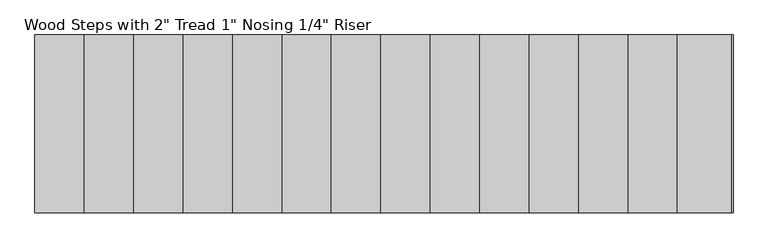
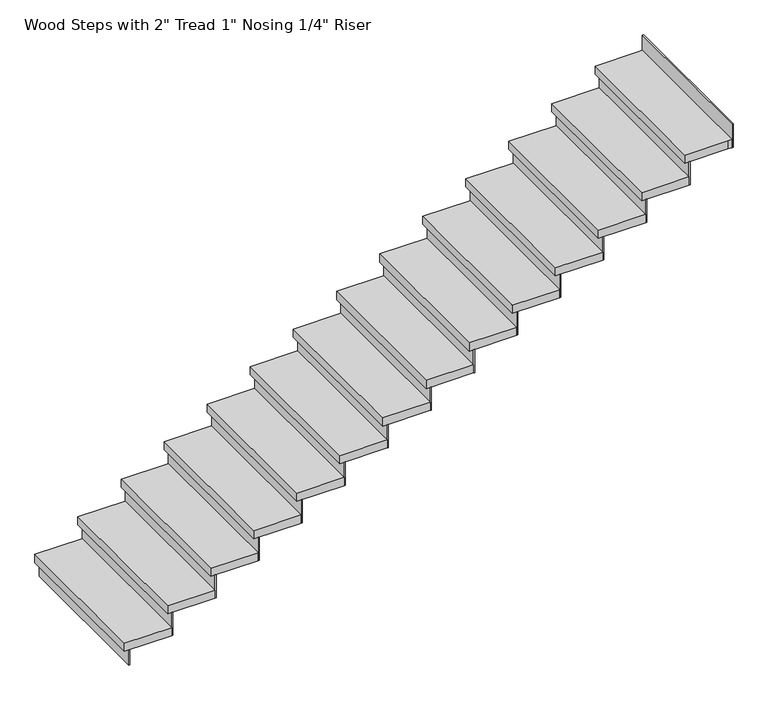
"""IFC4 building model written with IfcOpenShell, lengths in millimetres: stair flight geometry."""

from ifc_helpers import new_model, si_unit, frame, origin, origin_with_axes, place, context, project, spatial, polyline, outline, extrude, source, transform, mapped, element, save


def stair_flight_be7faa67(model_context):
    return source(origin(), model_context, "Body", "SweptSolid", [
        extrude(outline(polyline([(-36093.92137, 14905.6177722), (-36100.27137, 14905.6177722), (-36100.27137, 15820.0177722), (-36093.92137, 15820.0177722), (-36093.92137, 14905.6177722)])), origin_with_axes(), (0.0, 0.0, 1.0), 94.3428571),
        extrude(outline(polyline([(-35846.27137, 15820.0177722), (-35846.27137, 14905.6177722), (-36125.67137, 14905.6177722), (-36125.67137, 15820.0177722), (-35846.27137, 15820.0177722)])), frame((0.0, 0.0, 94.3428571), z_axis=(0.0, 0.0, 1.0), x_axis=(1.0, 0.0, 0.0)), (0.0, 0.0, 1.0), 50.8),
        extrude(outline(polyline([(-35839.92137, 14905.6177722), (-35846.27137, 14905.6177722), (-35846.27137, 15820.0177722), (-35839.92137, 15820.0177722), (-35839.92137, 14905.6177722)])), frame((0.0, 0.0, 94.3428571), z_axis=(0.0, 0.0, 1.0), x_axis=(1.0, 0.0, 0.0)), (0.0, 0.0, 1.0), 145.1428571),
        extrude(outline(polyline([(-35592.27137, 15820.0177722), (-35592.27137, 14905.6177722), (-35871.67137, 14905.6177722), (-35871.67137, 15820.0177722), (-35592.27137, 15820.0177722)])), frame((0.0, 0.0, 239.4857143), z_axis=(0.0, 0.0, 1.0), x_axis=(1.0, 0.0, 0.0)), (0.0, 0.0, 1.0), 50.8),
        extrude(outline(polyline([(-35585.92137, 14905.6177722), (-35592.27137, 14905.6177722), (-35592.27137, 15820.0177722), (-35585.92137, 15820.0177722), (-35585.92137, 14905.6177722)])), frame((0.0, 0.0, 239.4857143), z_axis=(0.0, 0.0, 1.0), x_axis=(1.0, 0.0, 0.0)), (0.0, 0.0, 1.0), 145.1428571),
        extrude(outline(polyline([(-35338.27137, 15820.0177722), (-35338.27137, 14905.6177722), (-35617.67137, 14905.6177722), (-35617.67137, 15820.0177722), (-35338.27137, 15820.0177722)])), frame((0.0, 0.0, 384.6285714), z_axis=(0.0, 0.0, 1.0), x_axis=(1.0, 0.0, 0.0)), (0.0, 0.0, 1.0), 50.8),
        extrude(outline(polyline([(-35331.92137, 14905.6177722), (-35338.27137, 14905.6177722), (-35338.27137, 15820.0177722), (-35331.92137, 15820.0177722), (-35331.92137, 14905.6177722)])), frame((0.0, 0.0, 384.6285714), z_axis=(0.0, 0.0, 1.0), x_axis=(1.0, 0.0, 0.0)), (0.0, 0.0, 1.0), 145.1428571),
        extrude(outline(polyline([(-35084.27137, 15820.0177722), (-35084.27137, 14905.6177722), (-35363.67137, 14905.6177722), (-35363.67137, 15820.0177722), (-35084.27137, 15820.0177722)])), frame((0.0, 0.0, 529.7714286), z_axis=(0.0, 0.0, 1.0), x_axis=(1.0, 0.0, 0.0)), (0.0, 0.0, 1.0), 50.8),
        extrude(outline(polyline([(-35077.92137, 14905.6177722), (-35084.27137, 14905.6177722), (-35084.27137, 15820.0177722), (-35077.92137, 15820.0177722), (-35077.92137, 14905.6177722)])), frame((0.0, 0.0, 529.7714286), z_axis=(0.0, 0.0, 1.0), x_axis=(1.0, 0.0, 0.0)), (0.0, 0.0, 1.0), 145.1428571),
        extrude(outline(polyline([(-34830.27137, 15820.0177722), (-34830.27137, 14905.6177722), (-35109.67137, 14905.6177722), (-35109.67137, 15820.0177722), (-34830.27137, 15820.0177722)])), frame((0.0, 0.0, 674.9142857), z_axis=(0.0, 0.0, 1.0), x_axis=(1.0, 0.0, 0.0)), (0.0, 0.0, 1.0), 50.8),
        extrude(outline(polyline([(-34823.92137, 14905.6177722), (-34830.27137, 14905.6177722), (-34830.27137, 15820.0177722), (-34823.92137, 15820.0177722), (-34823.92137, 14905.6177722)])), frame((0.0, 0.0, 674.9142857), z_axis=(0.0, 0.0, 1.0), x_axis=(1.0, 0.0, 0.0)), (0.0, 0.0, 1.0), 145.1428571),
        extrude(outline(polyline([(-34576.27137, 15820.0177722), (-34576.27137, 14905.6177722), (-34855.67137, 14905.6177722), (-34855.67137, 15820.0177722), (-34576.27137, 15820.0177722)])), frame((0.0, 0.0, 820.0571429), z_axis=(0.0, 0.0, 1.0), x_axis=(1.0, 0.0, 0.0)), (0.0, 0.0, 1.0), 50.8),
        extrude(outline(polyline([(-34569.92137, 14905.6177722), (-34576.27137, 14905.6177722), (-34576.27137, 15820.0177722), (-34569.92137, 15820.0177722), (-34569.92137, 14905.6177722)])), frame((0.0, 0.0, 820.0571429), z_axis=(0.0, 0.0, 1.0), x_axis=(1.0, 0.0, 0.0)), (0.0, 0.0, 1.0), 145.1428571),
        extrude(outline(polyline([(-34322.27137, 15820.0177722), (-34322.27137, 14905.6177722), (-34601.67137, 14905.6177722), (-34601.67137, 15820.0177722), (-34322.27137, 15820.0177722)])), frame((0.0, 0.0, 965.2), z_axis=(0.0, 0.0, 1.0), x_axis=(1.0, 0.0, 0.0)), (0.0, 0.0, 1.0), 50.8),
        extrude(outline(polyline([(-34315.92137, 14905.6177722), (-34322.27137, 14905.6177722), (-34322.27137, 15820.0177722), (-34315.92137, 15820.0177722), (-34315.92137, 14905.6177722)])), frame((0.0, 0.0, 965.2), z_axis=(0.0, 0.0, 1.0), x_axis=(1.0, 0.0, 0.0)), (0.0, 0.0, 1.0), 145.1428571),
        extrude(outline(polyline([(-34068.27137, 15820.0177722), (-34068.27137, 14905.6177722), (-34347.67137, 14905.6177722), (-34347.67137, 15820.0177722), (-34068.27137, 15820.0177722)])), frame((0.0, 0.0, 1110.3428571), z_axis=(0.0, 0.0, 1.0), x_axis=(1.0, 0.0, 0.0)), (0.0, 0.0, 1.0), 50.8),
        extrude(outline(polyline([(-34061.92137, 14905.6177722), (-34068.27137, 14905.6177722), (-34068.27137, 15820.0177722), (-34061.92137, 15820.0177722), (-34061.92137, 14905.6177722)])), frame((0.0, 0.0, 1110.3428571), z_axis=(0.0, 0.0, 1.0), x_axis=(1.0, 0.0, 0.0)), (0.0, 0.0, 1.0), 145.1428571),
        extrude(outline(polyline([(-33814.27137, 15820.0177722), (-33814.27137, 14905.6177722), (-34093.67137, 14905.6177722), (-34093.67137, 15820.0177722), (-33814.27137, 15820.0177722)])), frame((0.0, 0.0, 1255.4857143), z_axis=(0.0, 0.0, 1.0), x_axis=(1.0, 0.0, 0.0)), (0.0, 0.0, 1.0), 50.8),
        extrude(outline(polyline([(-33807.92137, 14905.6177722), (-33814.27137, 14905.6177722), (-33814.27137, 15820.0177722), (-33807.92137, 15820.0177722), (-33807.92137, 14905.6177722)])), frame((0.0, 0.0, 1255.4857143), z_axis=(0.0, 0.0, 1.0), x_axis=(1.0, 0.0, 0.0)), (0.0, 0.0, 1.0), 145.1428571),
        extrude(outline(polyline([(-33560.27137, 15820.0177722), (-33560.27137, 14905.6177722), (-33839.67137, 14905.6177722), (-33839.67137, 15820.0177722), (-33560.27137, 15820.0177722)])), frame((0.0, 0.0, 1400.6285714), z_axis=(0.0, 0.0, 1.0), x_axis=(1.0, 0.0, 0.0)), (0.0, 0.0, 1.0), 50.8),
        extrude(outline(polyline([(-33553.92137, 14905.6177722), (-33560.27137, 14905.6177722), (-33560.27137, 15820.0177722), (-33553.92137, 15820.0177722), (-33553.92137, 14905.6177722)])), frame((0.0, 0.0, 1400.6285714), z_axis=(0.0, 0.0, 1.0), x_axis=(1.0, 0.0, 0.0)), (0.0, 0.0, 1.0), 145.1428571),
        extrude(outline(polyline([(-33306.27137, 15820.0177722), (-33306.27137, 14905.6177722), (-33585.67137, 14905.6177722), (-33585.67137, 15820.0177722), (-33306.27137, 15820.0177722)])), frame((0.0, 0.0, 1545.7714286), z_axis=(0.0, 0.0, 1.0), x_axis=(1.0, 0.0, 0.0)), (0.0, 0.0, 1.0), 50.8),
        extrude(outline(polyline([(-33299.92137, 14905.6177722), (-33306.27137, 14905.6177722), (-33306.27137, 15820.0177722), (-33299.92137, 15820.0177722), (-33299.92137, 14905.6177722)])), frame((0.0, 0.0, 1545.7714286), z_axis=(0.0, 0.0, 1.0), x_axis=(1.0, 0.0, 0.0)), (0.0, 0.0, 1.0), 145.1428571),
        extrude(outline(polyline([(-33052.27137, 15820.0177722), (-33052.27137, 14905.6177722), (-33331.67137, 14905.6177722), (-33331.67137, 15820.0177722), (-33052.27137, 15820.0177722)])), frame((0.0, 0.0, 1690.9142857), z_axis=(0.0, 0.0, 1.0), x_axis=(1.0, 0.0, 0.0)), (0.0, 0.0, 1.0), 50.8),
        extrude(outline(polyline([(-33045.92137, 14905.6177722), (-33052.27137, 14905.6177722), (-33052.27137, 15820.0177722), (-33045.92137, 15820.0177722), (-33045.92137, 14905.6177722)])), frame((0.0, 0.0, 1690.9142857), z_axis=(0.0, 0.0, 1.0), x_axis=(1.0, 0.0, 0.0)), (0.0, 0.0, 1.0), 145.1428571),
        extrude(outline(polyline([(-32798.27137, 15820.0177722), (-32798.27137, 14905.6177722), (-33077.67137, 14905.6177722), (-33077.67137, 15820.0177722), (-32798.27137, 15820.0177722)])), frame((0.0, 0.0, 1836.0571429), z_axis=(0.0, 0.0, 1.0), x_axis=(1.0, 0.0, 0.0)), (0.0, 0.0, 1.0), 50.8),
        extrude(outline(polyline([(-32537.92137, 14905.6177722), (-32544.27137, 14905.6177722), (-32544.27137, 15820.0177722), (-32537.92137, 15820.0177722), (-32537.92137, 14905.6177722)])), frame((0.0, 0.0, 1981.2), z_axis=(0.0, 0.0, 1.0), x_axis=(1.0, 0.0, 0.0)), (0.0, 0.0, 1.0), 145.1428571),
        extrude(outline(polyline([(-32791.92137, 14905.6177722), (-32798.27137, 14905.6177722), (-32798.27137, 15820.0177722), (-32791.92137, 15820.0177722), (-32791.92137, 14905.6177722)])), frame((0.0, 0.0, 1836.0571429), z_axis=(0.0, 0.0, 1.0), x_axis=(1.0, 0.0, 0.0)), (0.0, 0.0, 1.0), 145.1428571),
        extrude(outline(polyline([(-32544.27137, 15820.0177722), (-32544.27137, 14905.6177722), (-32569.67137, 14905.6177722), (-32823.67137, 14905.6177722), (-32823.67137, 15820.0177722), (-32569.67137, 15820.0177722), (-32544.27137, 15820.0177722)])), frame((0.0, 0.0, 1981.2), z_axis=(0.0, 0.0, 1.0), x_axis=(1.0, 0.0, 0.0)), (0.0, 0.0, 1.0), 50.8),
    ])


if __name__ == "__main__":
    model = new_model("IFC4")
    model_context = context("Model", 3, world=origin())
    ifc_project = project(units=[si_unit("LENGTHUNIT", "METRE", prefix="MILLI")], contexts=[model_context])
    site = spatial("IfcSite", under=ifc_project)
    building = spatial("IfcBuilding", under=site)
    placement = place(None, origin())
    stair_flight_shape = stair_flight_be7faa67(model_context)
    element("IfcStairFlight", 1, ObjectType="Wood Steps with 2\" Tread 1\" Nosing 1/4\" Riser", at=placement, inside=building, context=model_context, shape_type="MappedRepresentation", body=[
        mapped(stair_flight_shape, transform((0.0, 0.0, 0.0), x_axis=(1.0, 0.0, 0.0), y_axis=(0.0, 1.0, 0.0), z_axis=(0.0, 0.0, 1.0))),
    ])
    save(model, "model.ifc")
